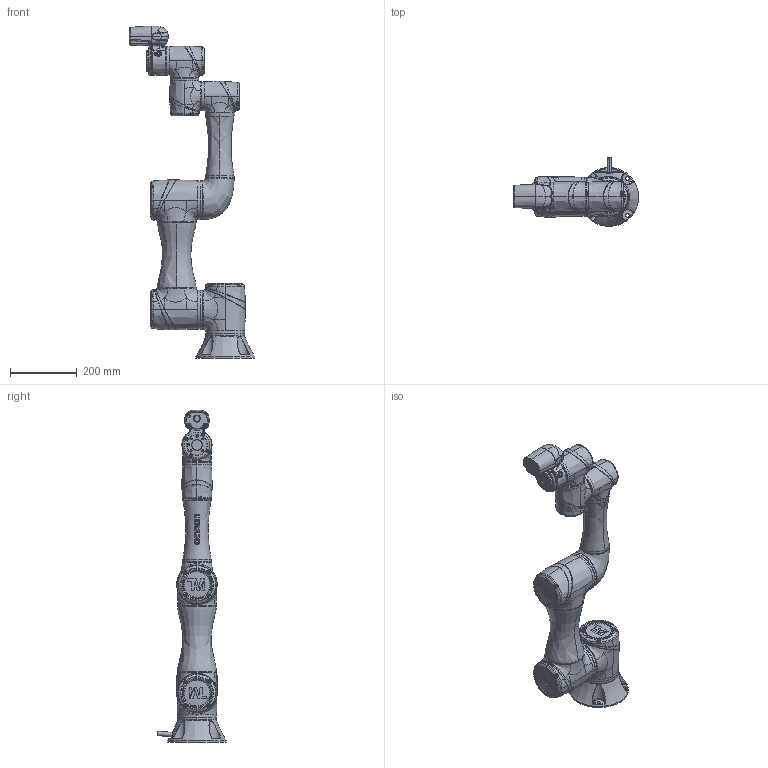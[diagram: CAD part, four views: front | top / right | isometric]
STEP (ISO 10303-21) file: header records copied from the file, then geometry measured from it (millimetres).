
FILE_DESCRIPTION((''),'2;1');
FILE_NAME('TM5A-700-WEB_ASM','2018-09-19T',('sean.lour'),(''),'CREO PARAMETRIC BY PTC INC, 2015290','CREO PARAMETRIC BY PTC INC, 2015290','');
FILE_SCHEMA(('AUTOMOTIVE_DESIGN { 1 0 10303 214 1 1 1 1 }'));
Products named in the file (31): OFLANGE400_8; HS400_8; COVER400-UNI_8; M3_9; JOINT400-TM5A_ASM_8_ASM; ARM1700_3; JOINT_L_3; ARM2700_3; OFLANGE100_8; HS100-TM5A_7; COVER100-UNI_7; JOINT100-TM5A_ASM_9_ASM; IO_MAIN_F_41_4; LENS_38_4; IO_MAIN_F_FRAME_21_4; IO_CAP_F_109_4; M5_16_6_4; 8A_05PFFS_SH7001_16_4; PBS_12H_ON_EX_27_4; IO_CAMERA_F_50_4; LIGHT_DIFFUSION_42_4; LIGHT_GLASS_31_4; IOMC_ASM_4_ASM; M3_8_19_4; IOM-1_ASM_4_ASM; TM5A-700-WEB_ASM_2_ASM; BS_5; WIREASSY_5; BASE-TM5A_ASM_5_ASM; TM5A-700-OMRON-LOGO; TM5A-700-WEB_ASM
Assembly tree (48 placements, depth 5):
  TM5A-700-WEB_ASM
    TM5A-700-WEB_ASM_2_ASM
      JOINT400-TM5A_ASM_8_ASM  x3
        OFLANGE400_8
        HS400_8
        COVER400-UNI_8
        M3_9
      ARM1700_3
      JOINT_L_3
      ARM2700_3
      JOINT100-TM5A_ASM_9_ASM  x3
        OFLANGE100_8
        HS100-TM5A_7
        COVER100-UNI_7
        M3_9
      IOM-1_ASM_4_ASM
        IO_MAIN_F_41_4
        LENS_38_4
        IO_MAIN_F_FRAME_21_4
        IO_CAP_F_109_4
        M5_16_6_4  x4
        8A_05PFFS_SH7001_16_4  x2
        PBS_12H_ON_EX_27_4  x4
        IOMC_ASM_4_ASM
          IO_CAMERA_F_50_4
          LIGHT_DIFFUSION_42_4
          LIGHT_GLASS_31_4
        M3_8_19_4  x2
    BASE-TM5A_ASM_5_ASM
      BS_5
      WIREASSY_5
    TM5A-700-OMRON-LOGO
Bounding box: 375.86 x 206.22 x 996.56 mm (x, y, z)
Volume: 13140442 mm3; surface area: 993400.3 mm2
Topology: 63 solids, 74 shells, 3012 faces, 7720 edges, 4971 vertices
Faces by surface type: bspline 1146, plane 1018, cylinder 398, torus 160, extrusion 155, cone 114, revolution 21
Entity records: 92458 total; most frequent: CARTESIAN_POINT 57025, ORIENTED_EDGE 7464, DIRECTION 4793, EDGE_CURVE 3863, VERTEX_POINT 2543, B_SPLINE_CURVE_WITH_KNOTS 2083, AXIS2_PLACEMENT_3D 1836, EDGE_LOOP 1561
